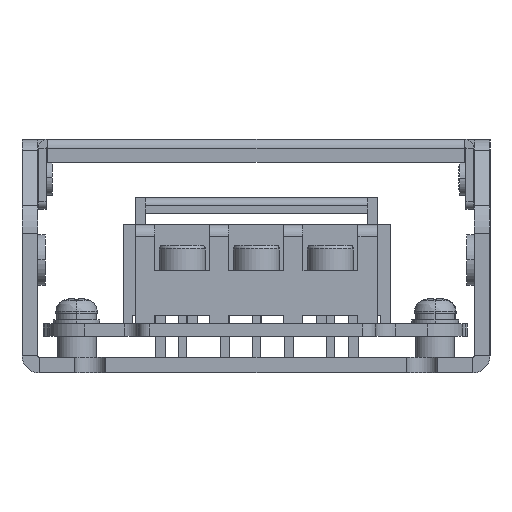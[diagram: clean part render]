
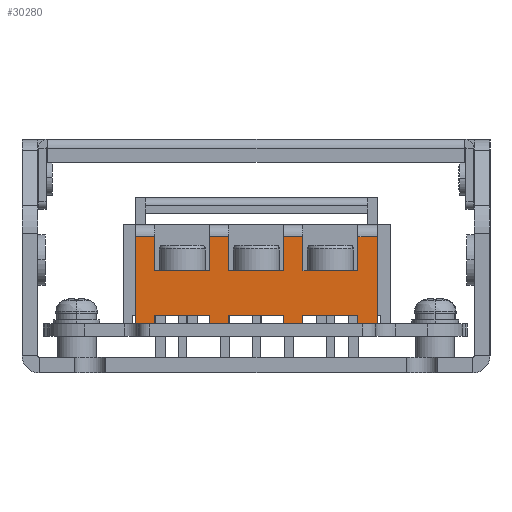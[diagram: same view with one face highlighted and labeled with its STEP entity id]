
A CAD part, left-side view. The second image highlights one B-rep face of the part: STEP entity #30280.
In plain terms, the highlighted planar face has unit normal (-1, 0, 0).
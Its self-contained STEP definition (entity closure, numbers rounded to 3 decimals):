
#27028=DIRECTION('',(0.,-1.,0.));
#27029=VECTOR('',#27028,2.45);
#27030=CARTESIAN_POINT('',(-103.575,-13.075,6.3));
#27031=LINE('',#27030,#27029);
#27044=DIRECTION('',(0.,-1.,0.));
#27045=VECTOR('',#27044,2.45);
#27046=CARTESIAN_POINT('',(-103.575,-3.575,6.3));
#27047=LINE('',#27046,#27045);
#27060=DIRECTION('',(0.,-1.,0.));
#27061=VECTOR('',#27060,2.45);
#27062=CARTESIAN_POINT('',(-103.575,5.925,6.3));
#27063=LINE('',#27062,#27061);
#27084=DIRECTION('',(0.,-1.,0.));
#27085=VECTOR('',#27084,2.45);
#27086=CARTESIAN_POINT('',(-103.575,15.425,6.3));
#27087=LINE('',#27086,#27085);
#27096=DIRECTION('',(0.,0.,1.));
#27097=VECTOR('',#27096,11.2);
#27098=CARTESIAN_POINT('',(-103.575,-15.525,6.3));
#27099=LINE('',#27098,#27097);
#27226=DIRECTION('',(0.,0.,1.));
#27227=VECTOR('',#27226,1.1);
#27228=CARTESIAN_POINT('',(-103.575,5.925,6.3));
#27229=LINE('',#27228,#27227);
#27230=DIRECTION('',(0.,1.,0.));
#27231=VECTOR('',#27230,7.05);
#27232=CARTESIAN_POINT('',(-103.575,5.925,7.4));
#27233=LINE('',#27232,#27231);
#27234=DIRECTION('',(0.,0.,1.));
#27235=VECTOR('',#27234,1.1);
#27236=CARTESIAN_POINT('',(-103.575,12.975,6.3));
#27237=LINE('',#27236,#27235);
#27238=DIRECTION('',(0.,0.,1.));
#27239=VECTOR('',#27238,11.2);
#27240=CARTESIAN_POINT('',(-103.575,15.425,6.3));
#27241=LINE('',#27240,#27239);
#27242=DIRECTION('',(0.,1.,0.));
#27243=VECTOR('',#27242,2.45);
#27244=CARTESIAN_POINT('',(-103.575,12.975,17.5));
#27245=LINE('',#27244,#27243);
#27246=DIRECTION('',(0.,0.,-1.));
#27247=VECTOR('',#27246,4.4);
#27248=CARTESIAN_POINT('',(-103.575,12.975,17.5));
#27249=LINE('',#27248,#27247);
#27250=DIRECTION('',(0.,-1.,0.));
#27251=VECTOR('',#27250,7.05);
#27252=CARTESIAN_POINT('',(-103.575,12.975,13.1));
#27253=LINE('',#27252,#27251);
#27254=DIRECTION('',(0.,0.,-1.));
#27255=VECTOR('',#27254,4.4);
#27256=CARTESIAN_POINT('',(-103.575,5.925,17.5));
#27257=LINE('',#27256,#27255);
#27258=DIRECTION('',(0.,1.,0.));
#27259=VECTOR('',#27258,2.45);
#27260=CARTESIAN_POINT('',(-103.575,3.475,17.5));
#27261=LINE('',#27260,#27259);
#27262=DIRECTION('',(0.,0.,-1.));
#27263=VECTOR('',#27262,4.4);
#27264=CARTESIAN_POINT('',(-103.575,3.475,17.5));
#27265=LINE('',#27264,#27263);
#27266=DIRECTION('',(0.,-1.,0.));
#27267=VECTOR('',#27266,7.05);
#27268=CARTESIAN_POINT('',(-103.575,3.475,13.1));
#27269=LINE('',#27268,#27267);
#27270=DIRECTION('',(0.,0.,-1.));
#27271=VECTOR('',#27270,4.4);
#27272=CARTESIAN_POINT('',(-103.575,-3.575,17.5));
#27273=LINE('',#27272,#27271);
#27274=DIRECTION('',(0.,1.,0.));
#27275=VECTOR('',#27274,2.45);
#27276=CARTESIAN_POINT('',(-103.575,-6.025,17.5));
#27277=LINE('',#27276,#27275);
#27278=DIRECTION('',(0.,0.,-1.));
#27279=VECTOR('',#27278,4.4);
#27280=CARTESIAN_POINT('',(-103.575,-6.025,17.5));
#27281=LINE('',#27280,#27279);
#27282=DIRECTION('',(0.,-1.,0.));
#27283=VECTOR('',#27282,7.05);
#27284=CARTESIAN_POINT('',(-103.575,-6.025,13.1));
#27285=LINE('',#27284,#27283);
#27286=DIRECTION('',(0.,0.,-1.));
#27287=VECTOR('',#27286,4.4);
#27288=CARTESIAN_POINT('',(-103.575,-13.075,17.5));
#27289=LINE('',#27288,#27287);
#27290=DIRECTION('',(0.,1.,0.));
#27291=VECTOR('',#27290,2.45);
#27292=CARTESIAN_POINT('',(-103.575,-15.525,17.5));
#27293=LINE('',#27292,#27291);
#27294=DIRECTION('',(0.,0.,1.));
#27295=VECTOR('',#27294,1.1);
#27296=CARTESIAN_POINT('',(-103.575,-13.075,6.3));
#27297=LINE('',#27296,#27295);
#27298=DIRECTION('',(0.,1.,0.));
#27299=VECTOR('',#27298,7.05);
#27300=CARTESIAN_POINT('',(-103.575,-13.075,7.4));
#27301=LINE('',#27300,#27299);
#27302=DIRECTION('',(0.,0.,1.));
#27303=VECTOR('',#27302,1.1);
#27304=CARTESIAN_POINT('',(-103.575,-6.025,6.3));
#27305=LINE('',#27304,#27303);
#27306=DIRECTION('',(0.,0.,1.));
#27307=VECTOR('',#27306,1.1);
#27308=CARTESIAN_POINT('',(-103.575,-3.575,6.3));
#27309=LINE('',#27308,#27307);
#27310=DIRECTION('',(0.,1.,0.));
#27311=VECTOR('',#27310,7.05);
#27312=CARTESIAN_POINT('',(-103.575,-3.575,7.4));
#27313=LINE('',#27312,#27311);
#27314=DIRECTION('',(0.,0.,1.));
#27315=VECTOR('',#27314,1.1);
#27316=CARTESIAN_POINT('',(-103.575,3.475,6.3));
#27317=LINE('',#27316,#27315);
#29148=CARTESIAN_POINT('',(-103.575,-15.525,6.3));
#29150=VERTEX_POINT('',#29148);
#29153=CARTESIAN_POINT('',(-103.575,15.425,6.3));
#29155=VERTEX_POINT('',#29153);
#29210=CARTESIAN_POINT('',(-103.575,15.425,17.5));
#29212=VERTEX_POINT('',#29210);
#29214=CARTESIAN_POINT('',(-103.575,-15.525,17.5));
#29215=VERTEX_POINT('',#29214);
#29228=CARTESIAN_POINT('',(-103.575,-6.025,17.5));
#29229=CARTESIAN_POINT('',(-103.575,-6.025,13.1));
#29230=VERTEX_POINT('',#29228);
#29231=VERTEX_POINT('',#29229);
#29232=CARTESIAN_POINT('',(-103.575,-13.075,13.1));
#29233=VERTEX_POINT('',#29232);
#29234=CARTESIAN_POINT('',(-103.575,-13.075,17.5));
#29235=VERTEX_POINT('',#29234);
#29248=CARTESIAN_POINT('',(-103.575,3.475,17.5));
#29249=CARTESIAN_POINT('',(-103.575,3.475,13.1));
#29250=VERTEX_POINT('',#29248);
#29251=VERTEX_POINT('',#29249);
#29252=CARTESIAN_POINT('',(-103.575,-3.575,13.1));
#29253=VERTEX_POINT('',#29252);
#29254=CARTESIAN_POINT('',(-103.575,-3.575,17.5));
#29255=VERTEX_POINT('',#29254);
#29268=CARTESIAN_POINT('',(-103.575,12.975,17.5));
#29269=CARTESIAN_POINT('',(-103.575,12.975,13.1));
#29270=VERTEX_POINT('',#29268);
#29271=VERTEX_POINT('',#29269);
#29272=CARTESIAN_POINT('',(-103.575,5.925,13.1));
#29273=VERTEX_POINT('',#29272);
#29274=CARTESIAN_POINT('',(-103.575,5.925,17.5));
#29275=VERTEX_POINT('',#29274);
#29512=CARTESIAN_POINT('',(-103.575,-13.075,6.3));
#29514=VERTEX_POINT('',#29512);
#29516=CARTESIAN_POINT('',(-103.575,-6.025,6.3));
#29518=VERTEX_POINT('',#29516);
#29524=CARTESIAN_POINT('',(-103.575,-13.075,7.4));
#29525=VERTEX_POINT('',#29524);
#29526=CARTESIAN_POINT('',(-103.575,-6.025,7.4));
#29527=VERTEX_POINT('',#29526);
#29528=CARTESIAN_POINT('',(-103.575,-3.575,6.3));
#29530=VERTEX_POINT('',#29528);
#29532=CARTESIAN_POINT('',(-103.575,3.475,6.3));
#29534=VERTEX_POINT('',#29532);
#29540=CARTESIAN_POINT('',(-103.575,-3.575,7.4));
#29541=VERTEX_POINT('',#29540);
#29542=CARTESIAN_POINT('',(-103.575,3.475,7.4));
#29543=VERTEX_POINT('',#29542);
#29544=CARTESIAN_POINT('',(-103.575,5.925,6.3));
#29546=VERTEX_POINT('',#29544);
#29548=CARTESIAN_POINT('',(-103.575,12.975,6.3));
#29550=VERTEX_POINT('',#29548);
#29556=CARTESIAN_POINT('',(-103.575,5.925,7.4));
#29557=VERTEX_POINT('',#29556);
#29558=CARTESIAN_POINT('',(-103.575,12.975,7.4));
#29559=VERTEX_POINT('',#29558);
#30223=CARTESIAN_POINT('',(-103.575,15.425,6.3));
#30224=DIRECTION('',(-1.,0.,0.));
#30225=DIRECTION('',(0.,-1.,0.));
#30226=AXIS2_PLACEMENT_3D('',#30223,#30224,#30225);
#30227=PLANE('',#30226);
#30229=ORIENTED_EDGE('',*,*,#30228,.T.);
#30231=ORIENTED_EDGE('',*,*,#30230,.T.);
#30233=ORIENTED_EDGE('',*,*,#30232,.F.);
#30234=ORIENTED_EDGE('',*,*,#30064,.F.);
#30235=ORIENTED_EDGE('',*,*,#30198,.T.);
#30237=ORIENTED_EDGE('',*,*,#30236,.F.);
#30239=ORIENTED_EDGE('',*,*,#30238,.T.);
#30241=ORIENTED_EDGE('',*,*,#30240,.T.);
#30243=ORIENTED_EDGE('',*,*,#30242,.F.);
#30245=ORIENTED_EDGE('',*,*,#30244,.F.);
#30247=ORIENTED_EDGE('',*,*,#30246,.T.);
#30249=ORIENTED_EDGE('',*,*,#30248,.T.);
#30251=ORIENTED_EDGE('',*,*,#30250,.F.);
#30253=ORIENTED_EDGE('',*,*,#30252,.F.);
#30255=ORIENTED_EDGE('',*,*,#30254,.T.);
#30257=ORIENTED_EDGE('',*,*,#30256,.T.);
#30259=ORIENTED_EDGE('',*,*,#30258,.F.);
#30261=ORIENTED_EDGE('',*,*,#30260,.F.);
#30262=ORIENTED_EDGE('',*,*,#30090,.F.);
#30263=ORIENTED_EDGE('',*,*,#29991,.F.);
#30265=ORIENTED_EDGE('',*,*,#30264,.T.);
#30267=ORIENTED_EDGE('',*,*,#30266,.T.);
#30269=ORIENTED_EDGE('',*,*,#30268,.F.);
#30270=ORIENTED_EDGE('',*,*,#30014,.F.);
#30272=ORIENTED_EDGE('',*,*,#30271,.T.);
#30274=ORIENTED_EDGE('',*,*,#30273,.T.);
#30276=ORIENTED_EDGE('',*,*,#30275,.F.);
#30277=ORIENTED_EDGE('',*,*,#30037,.F.);
#30278=EDGE_LOOP('',(#30229,#30231,#30233,#30234,#30235,#30237,#30239,#30241,
#30243,#30245,#30247,#30249,#30251,#30253,#30255,#30257,#30259,#30261,#30262,
#30263,#30265,#30267,#30269,#30270,#30272,#30274,#30276,#30277));
#30279=FACE_OUTER_BOUND('',#30278,.F.);
#30280=ADVANCED_FACE('',(#30279),#30227,.T.);
#29991=EDGE_CURVE('',#29514,#29150,#27031,.T.);
#30014=EDGE_CURVE('',#29530,#29518,#27047,.T.);
#30037=EDGE_CURVE('',#29546,#29534,#27063,.T.);
#30064=EDGE_CURVE('',#29155,#29550,#27087,.T.);
#30090=EDGE_CURVE('',#29150,#29215,#27099,.T.);
#30198=EDGE_CURVE('',#29155,#29212,#27241,.T.);
#30228=EDGE_CURVE('',#29546,#29557,#27229,.T.);
#30230=EDGE_CURVE('',#29557,#29559,#27233,.T.);
#30232=EDGE_CURVE('',#29550,#29559,#27237,.T.);
#30236=EDGE_CURVE('',#29270,#29212,#27245,.T.);
#30238=EDGE_CURVE('',#29270,#29271,#27249,.T.);
#30240=EDGE_CURVE('',#29271,#29273,#27253,.T.);
#30242=EDGE_CURVE('',#29275,#29273,#27257,.T.);
#30244=EDGE_CURVE('',#29250,#29275,#27261,.T.);
#30246=EDGE_CURVE('',#29250,#29251,#27265,.T.);
#30248=EDGE_CURVE('',#29251,#29253,#27269,.T.);
#30250=EDGE_CURVE('',#29255,#29253,#27273,.T.);
#30252=EDGE_CURVE('',#29230,#29255,#27277,.T.);
#30254=EDGE_CURVE('',#29230,#29231,#27281,.T.);
#30256=EDGE_CURVE('',#29231,#29233,#27285,.T.);
#30258=EDGE_CURVE('',#29235,#29233,#27289,.T.);
#30260=EDGE_CURVE('',#29215,#29235,#27293,.T.);
#30264=EDGE_CURVE('',#29514,#29525,#27297,.T.);
#30266=EDGE_CURVE('',#29525,#29527,#27301,.T.);
#30268=EDGE_CURVE('',#29518,#29527,#27305,.T.);
#30271=EDGE_CURVE('',#29530,#29541,#27309,.T.);
#30273=EDGE_CURVE('',#29541,#29543,#27313,.T.);
#30275=EDGE_CURVE('',#29534,#29543,#27317,.T.);
